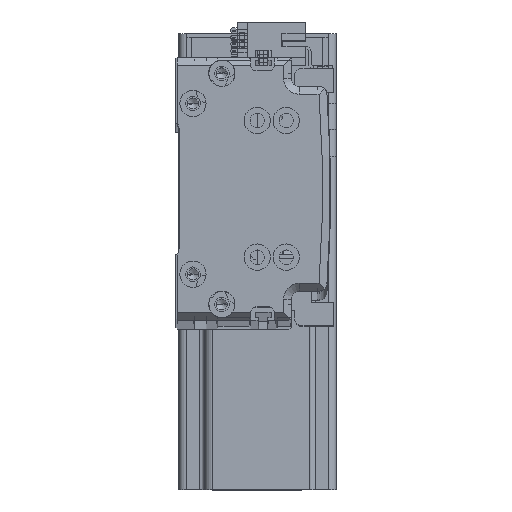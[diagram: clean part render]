
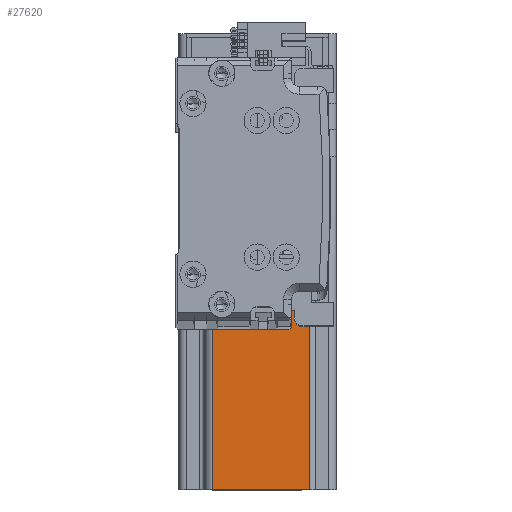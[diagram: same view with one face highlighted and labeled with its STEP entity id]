
A CAD part, top view. The second image highlights one B-rep face of the part: STEP entity #27620.
In plain terms, the highlighted planar face has unit normal (0, 0, 1) as drawn and (-1, 0, 0) by its records, which use the part's own axes.
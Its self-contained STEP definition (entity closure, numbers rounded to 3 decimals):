
#184 = LINE ( 'NONE', #39200, #52538 ) ;
#548 = FACE_OUTER_BOUND ( 'NONE', #60215, .T. ) ;
#1422 = VERTEX_POINT ( 'NONE', #60026 ) ;
#2165 = VERTEX_POINT ( 'NONE', #59089 ) ;
#2546 = ORIENTED_EDGE ( 'NONE', *, *, #25874, .T. ) ;
#3059 = VECTOR ( 'NONE', #41426, 1000. ) ;
#4178 = VECTOR ( 'NONE', #42711, 1000. ) ;
#4827 = EDGE_CURVE ( 'NONE', #36898, #2165, #27740, .T. ) ;
#6248 = EDGE_CURVE ( 'NONE', #27757, #19431, #51905, .T. ) ;
#6884 = VERTEX_POINT ( 'NONE', #36535 ) ;
#7674 = ORIENTED_EDGE ( 'NONE', *, *, #39680, .T. ) ;
#8961 = CARTESIAN_POINT ( 'NONE',  ( -30., -27., 10. ) ) ;
#10299 = ORIENTED_EDGE ( 'NONE', *, *, #43201, .F. ) ;
#10582 = DIRECTION ( 'NONE',  ( 0., 0., 1. ) ) ;
#11103 = CARTESIAN_POINT ( 'NONE',  ( -30., -30., 137. ) ) ;
#12235 = DIRECTION ( 'NONE',  ( 0., 1., 0. ) ) ;
#12367 = ORIENTED_EDGE ( 'NONE', *, *, #40992, .T. ) ;
#17765 = CARTESIAN_POINT ( 'NONE',  ( -30., 27., 10. ) ) ;
#19125 = ORIENTED_EDGE ( 'NONE', *, *, #60281, .T. ) ;
#19431 = VERTEX_POINT ( 'NONE', #8961 ) ;
#21089 = VECTOR ( 'NONE', #12235, 1000. ) ;
#21305 = CARTESIAN_POINT ( 'NONE',  ( -30., -27., 0. ) ) ;
#21423 = DIRECTION ( 'NONE',  ( 1., 0., 0. ) ) ;
#25302 = AXIS2_PLACEMENT_3D ( 'NONE', #51802, #21423, #56952 ) ;
#25547 = ORIENTED_EDGE ( 'NONE', *, *, #4827, .F. ) ;
#25874 = EDGE_CURVE ( 'NONE', #45910, #6884, #63336, .T. ) ;
#27620 = ADVANCED_FACE ( 'NONE', ( #548 ), #46451, .F. ) ;
#27740 = LINE ( 'NONE', #41909, #65058 ) ;
#27757 = VERTEX_POINT ( 'NONE', #32463 ) ;
#28011 = ORIENTED_EDGE ( 'NONE', *, *, #65016, .T. ) ;
#32463 = CARTESIAN_POINT ( 'NONE',  ( -30., -17., 10. ) ) ;
#32547 = ORIENTED_EDGE ( 'NONE', *, *, #6248, .F. ) ;
#35133 = DIRECTION ( 'NONE',  ( 0., 0., -1. ) ) ;
#36203 = CARTESIAN_POINT ( 'NONE',  ( -30., -30., 10. ) ) ;
#36535 = CARTESIAN_POINT ( 'NONE',  ( -30., 27., 0. ) ) ;
#36803 = VECTOR ( 'NONE', #41296, 1000. ) ;
#36898 = VERTEX_POINT ( 'NONE', #61472 ) ;
#37677 = CARTESIAN_POINT ( 'NONE',  ( -30., 30., 10. ) ) ;
#39080 = LINE ( 'NONE', #46023, #64578 ) ;
#39200 = CARTESIAN_POINT ( 'NONE',  ( -30., -30., 0. ) ) ;
#39680 = EDGE_CURVE ( 'NONE', #36898, #45910, #60009, .T. ) ;
#40992 = EDGE_CURVE ( 'NONE', #6884, #43210, #184, .T. ) ;
#41296 = DIRECTION ( 'NONE',  ( 0., -1., 0. ) ) ;
#41426 = DIRECTION ( 'NONE',  ( 0., -1., 0. ) ) ;
#41909 = CARTESIAN_POINT ( 'NONE',  ( -30., 20., 10. ) ) ;
#42711 = DIRECTION ( 'NONE',  ( 0., 0., 1. ) ) ;
#43201 = EDGE_CURVE ( 'NONE', #2165, #1422, #55469, .T. ) ;
#43210 = VERTEX_POINT ( 'NONE', #21305 ) ;
#45143 = CARTESIAN_POINT ( 'NONE',  ( -30., 27., 137. ) ) ;
#45910 = VERTEX_POINT ( 'NONE', #17765 ) ;
#46023 = CARTESIAN_POINT ( 'NONE',  ( -30., -27., 137. ) ) ;
#46451 = PLANE ( 'NONE',  #25302 ) ;
#47016 = DIRECTION ( 'NONE',  ( 0., 0., 1. ) ) ;
#47814 = CARTESIAN_POINT ( 'NONE',  ( -30., -17., 137. ) ) ;
#49792 = VECTOR ( 'NONE', #35133, 1000. ) ;
#51802 = CARTESIAN_POINT ( 'NONE',  ( -30., -30., 137. ) ) ;
#51905 = LINE ( 'NONE', #36203, #36803 ) ;
#52538 = VECTOR ( 'NONE', #60149, 1000. ) ;
#55469 = LINE ( 'NONE', #11103, #3059 ) ;
#56952 = DIRECTION ( 'NONE',  ( 0., 0., -1. ) ) ;
#58146 = LINE ( 'NONE', #47814, #4178 ) ;
#59089 = CARTESIAN_POINT ( 'NONE',  ( -30., 20., 137. ) ) ;
#60009 = LINE ( 'NONE', #37677, #21089 ) ;
#60026 = CARTESIAN_POINT ( 'NONE',  ( -30., -17., 137. ) ) ;
#60149 = DIRECTION ( 'NONE',  ( 0., -1., 0. ) ) ;
#60215 = EDGE_LOOP ( 'NONE', ( #32547, #28011, #10299, #25547, #7674, #2546, #12367, #19125 ) ) ;
#60281 = EDGE_CURVE ( 'NONE', #43210, #19431, #39080, .T. ) ;
#61472 = CARTESIAN_POINT ( 'NONE',  ( -30., 20., 10. ) ) ;
#63336 = LINE ( 'NONE', #45143, #49792 ) ;
#64578 = VECTOR ( 'NONE', #10582, 1000. ) ;
#65016 = EDGE_CURVE ( 'NONE', #27757, #1422, #58146, .T. ) ;
#65058 = VECTOR ( 'NONE', #47016, 1000. ) ;
